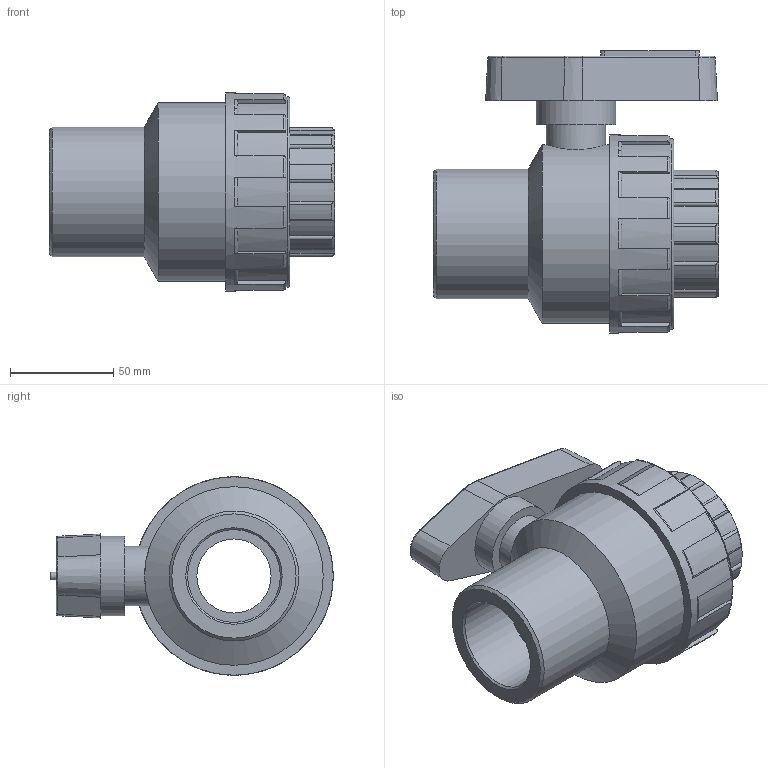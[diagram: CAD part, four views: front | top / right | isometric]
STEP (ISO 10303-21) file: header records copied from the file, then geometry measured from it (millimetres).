
FILE_DESCRIPTION(/* description */ ('PLASSON 1/NUT VALVE FEMALE THREADED 1 1/2" PVC'),/* implementation_level */ '2;1');
FILE_NAME(/* name */ 'C:\Dropbox\KIMPROJECTS-Inventor\99-16-3568-Processing\PVC Catalog 2017\113510\11351015.ipt.stp',/* time_stamp */ '2017-12-07T16:12:08+02:00',/* author */ ('KIM'),/* organization */ (''),/* preprocessor_version */ 'ST-DEVELOPER v15.6',/* originating_system */ 'Autodesk Inventor 2015',/* authorisation */ '');
FILE_SCHEMA (('AUTOMOTIVE_DESIGN { 1 0 10303 214 3 1 1 }'));
Length unit declared in the file: millimetre
Products named in the file (1): 11351015
Bounding box: 138 x 136.58 x 96 mm (x, y, z)
Volume: 555239.5 mm3; surface area: 75180.9 mm2
Topology: 1 solids, 1 shells, 166 faces, 439 edges, 282 vertices
Faces by surface type: plane 64, cylinder 55, torus 29, cone 18
Full cylindrical faces by diameter (mm): 28.8 x1, 35.876 x1, 38.4 x1, 44.845 x2, 62.783 x1, 86.4 x1, 92.16 x1, 96 x1
Entity records: 5634 total; most frequent: CARTESIAN_POINT 1562, DIRECTION 868, ORIENTED_EDGE 836, EDGE_CURVE 418, AXIS2_PLACEMENT_3D 352, VERTEX_POINT 276, EDGE_LOOP 190, CIRCLE 185
